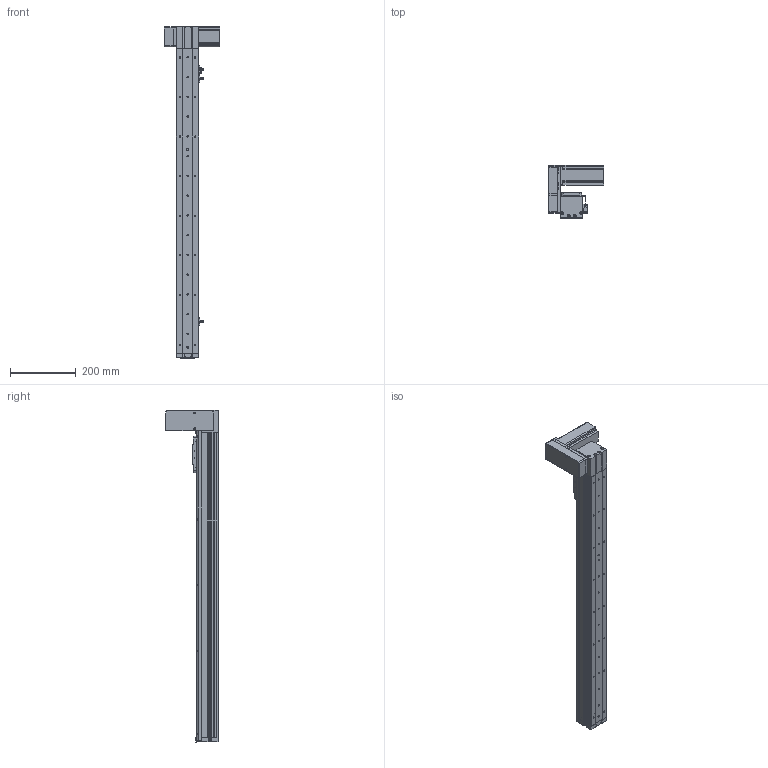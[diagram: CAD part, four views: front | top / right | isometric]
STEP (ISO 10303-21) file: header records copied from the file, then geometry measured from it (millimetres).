
FILE_DESCRIPTION (( 'STEP AP214' ), '1' );
FILE_NAME ('KSD68BS-S750-MRU-CR.STEP', '2019-11-08T05:55:02', ( '微软用户' ), ( '微软中国' ), 'SwSTEP 2.0', 'SolidWorks 2014', '' );
FILE_SCHEMA (( 'AUTOMOTIVE_DESIGN' ));
Length unit declared in the file: millimetre
Products named in the file (14): 感应片68宽全封闭; U倰嫖萇EEㄜSX672; KSD68BS 750行程盖板全封闭; 台达ECMA－C20604AS伺服电机（400W); KSD68BS 750行程底板全封闭; KSD68BS-S750-MRU-CR; 68宽单导轨全封闭丝杆传动安装板1防护罩; KSD68BS 750行程侧板全封闭; 68宽单导轨全封闭同步带端板; 68单导轨全封闭同步带电机座右; 68单导轨全封闭同步带安装板; 悵誘欶奻狟殏; 68遵裔啣揤啣1; 68宽马达安装板连板上折同步带
Assembly tree (17 placements, depth 2):
  KSD68BS-S750-MRU-CR
    KSD68BS 750行程底板全封闭
    台达ECMA－C20604AS伺服电机（400W)
    U倰嫖萇EEㄜSX672  x3
    感应片68宽全封闭
    68宽马达安装板连板上折同步带
    悵誘欶奻狟殏
    68单导轨全封闭同步带安装板
    68单导轨全封闭同步带电机座右
    68宽单导轨全封闭同步带端板
    KSD68BS 750行程侧板全封闭  x2
    68宽单导轨全封闭丝杆传动安装板1防护罩
    68遵裔啣揤啣1  x2
    KSD68BS 750行程盖板全封闭
Bounding box: 167.2 x 159.5 x 1008.1 mm (x, y, z)
Volume: 2200560.2 mm3; surface area: 813072 mm2
Topology: 18 solids, 18 shells, 1458 faces, 4131 edges, 2647 vertices
Faces by surface type: cylinder 679, plane 627, cone 152
Entity records: 45806 total; most frequent: CARTESIAN_POINT 7759, DIRECTION 6897, ORIENTED_EDGE 6598, EDGE_CURVE 3299, AXIS2_PLACEMENT_3D 2475, VERTEX_POINT 2165, VECTOR 1947, LINE 1947
